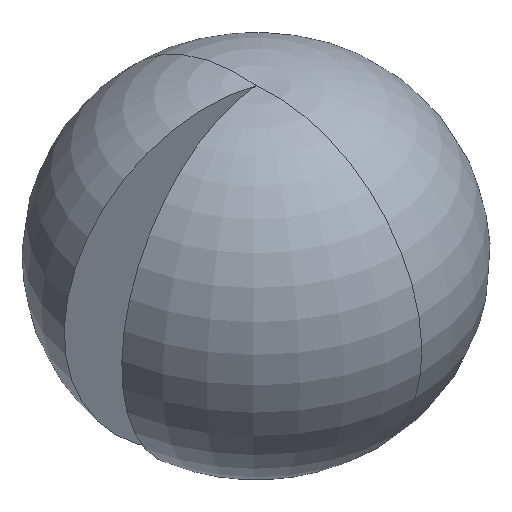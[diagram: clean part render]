
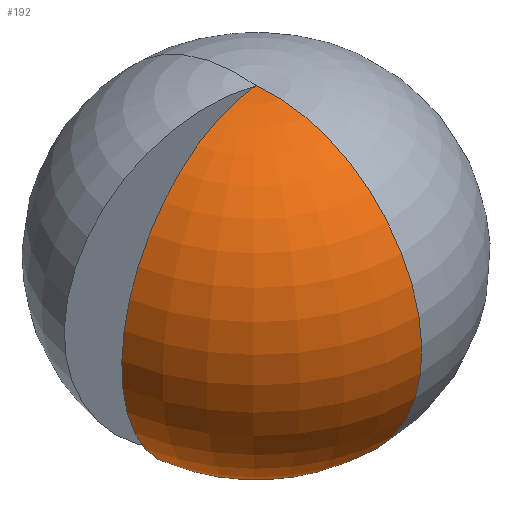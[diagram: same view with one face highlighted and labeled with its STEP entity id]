
A CAD part, isometric view. The second image highlights one B-rep face of the part: STEP entity #192.
In plain terms, the highlighted toroidal (fillet/blend) face has major radius 280 mm and minor radius 2421.05 mm.
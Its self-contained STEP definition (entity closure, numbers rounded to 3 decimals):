
#1 = EDGE_CURVE ( 'NONE', #355, #358, #262, .T. ) ;
#6 = CARTESIAN_POINT ( 'NONE',  ( 0., 0., 670. ) ) ;
#42 = DIRECTION ( 'NONE',  ( 0., 1., 0. ) ) ;
#54 = EDGE_LOOP ( 'NONE', ( #333, #248, #127 ) ) ;
#68 = CARTESIAN_POINT ( 'NONE',  ( 0., -1668.66, -1313.211 ) ) ;
#75 = VERTEX_POINT ( 'NONE', #226 ) ;
#126 = CARTESIAN_POINT ( 'NONE',  ( -275.746, -48.621, 670. ) ) ;
#127 = ORIENTED_EDGE ( 'NONE', *, *, #1, .F. ) ;
#144 = TOROIDAL_SURFACE ( 'NONE', #302, 280., 2421.054 ) ;
#178 = AXIS2_PLACEMENT_3D ( 'NONE', #344, #181, #211 ) ;
#181 = DIRECTION ( 'NONE',  ( 1., 0., 0. ) ) ;
#182 = DIRECTION ( 'NONE',  ( -0.985, -0.174, 0. ) ) ;
#186 = CARTESIAN_POINT ( 'NONE',  ( 0., 0., -1313.211 ) ) ;
#192 = ADVANCED_FACE ( 'NONE', ( #264 ), #144, .T. ) ;
#210 = EDGE_CURVE ( 'NONE', #358, #75, #220, .T. ) ;
#211 = DIRECTION ( 'NONE',  ( 0., 1., 0. ) ) ;
#220 = CIRCLE ( 'NONE', #250, 2421.054 ) ;
#222 = DIRECTION ( 'NONE',  ( 0., 0., -1. ) ) ;
#226 = CARTESIAN_POINT ( 'NONE',  ( 0., 0., 3074.808 ) ) ;
#232 = DIRECTION ( 'NONE',  ( -0.174, 0.985, 0. ) ) ;
#239 = DIRECTION ( 'NONE',  ( 0., 1., 0. ) ) ;
#248 = ORIENTED_EDGE ( 'NONE', *, *, #210, .F. ) ;
#250 = AXIS2_PLACEMENT_3D ( 'NONE', #126, #232, #182 ) ;
#261 = EDGE_CURVE ( 'NONE', #75, #355, #364, .T. ) ;
#262 = CIRCLE ( 'NONE', #283, 1668.66 ) ;
#264 = FACE_OUTER_BOUND ( 'NONE', #54, .T. ) ;
#283 = AXIS2_PLACEMENT_3D ( 'NONE', #186, #222, #42 ) ;
#301 = CARTESIAN_POINT ( 'NONE',  ( -1643.309, -289.76, -1313.211 ) ) ;
#302 = AXIS2_PLACEMENT_3D ( 'NONE', #6, #325, #239 ) ;
#325 = DIRECTION ( 'NONE',  ( 0., 0., -1. ) ) ;
#333 = ORIENTED_EDGE ( 'NONE', *, *, #261, .F. ) ;
#344 = CARTESIAN_POINT ( 'NONE',  ( 0., -280., 670. ) ) ;
#355 = VERTEX_POINT ( 'NONE', #68 ) ;
#358 = VERTEX_POINT ( 'NONE', #301 ) ;
#364 = CIRCLE ( 'NONE', #178, 2421.054 ) ;
